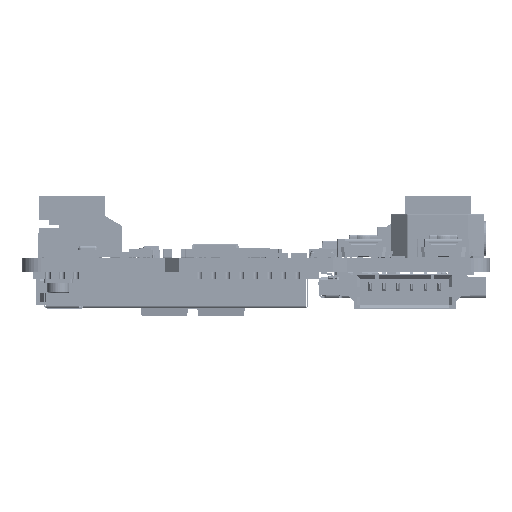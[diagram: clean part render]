
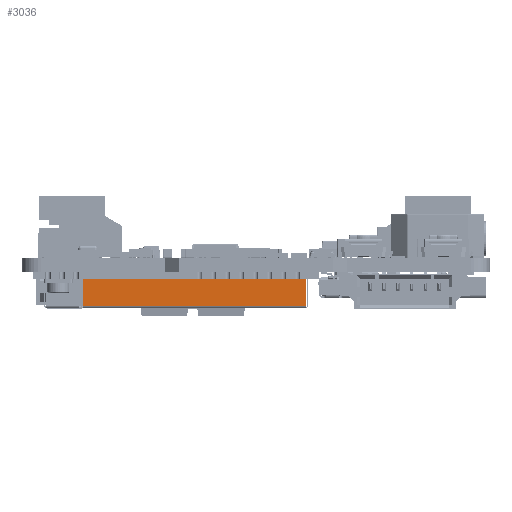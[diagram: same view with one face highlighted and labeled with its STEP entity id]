
A CAD part, left-side view. The second image highlights one B-rep face of the part: STEP entity #3036.
In plain terms, the highlighted planar face has unit normal (-1, 0, 0).
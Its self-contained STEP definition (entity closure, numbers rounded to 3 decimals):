
#2540 = EDGE_CURVE('',#2541,#2543,#2545,.T.);
#2541 = VERTEX_POINT('',#2542);
#2542 = CARTESIAN_POINT('',(-6.5,3.05,-11.794));
#2543 = VERTEX_POINT('',#2544);
#2544 = CARTESIAN_POINT('',(-6.5,0.65,-11.794));
#2545 = LINE('',#2546,#2547);
#2546 = CARTESIAN_POINT('',(-6.5,33.795,-11.794));
#2547 = VECTOR('',#2548,1.);
#2548 = DIRECTION('',(0.,-1.,0.));
#2615 = VERTEX_POINT('',#2616);
#2616 = CARTESIAN_POINT('',(-6.5,0.65,8.454));
#2622 = EDGE_CURVE('',#2543,#2615,#2623,.T.);
#2623 = LINE('',#2624,#2625);
#2624 = CARTESIAN_POINT('',(-6.5,0.65,8.66));
#2625 = VECTOR('',#2626,1.);
#2626 = DIRECTION('',(-0.,-0.,1.));
#2679 = VERTEX_POINT('',#2680);
#2680 = CARTESIAN_POINT('',(-6.5,3.05,8.454));
#2687 = EDGE_CURVE('',#2615,#2679,#2688,.T.);
#2688 = LINE('',#2689,#2690);
#2689 = CARTESIAN_POINT('',(-6.5,33.795,8.454));
#2690 = VECTOR('',#2691,1.);
#2691 = DIRECTION('',(0.,1.,0.));
#3036 = ADVANCED_FACE('',(#3037),#3048,.F.);
#3037 = FACE_BOUND('',#3038,.T.);
#3038 = EDGE_LOOP('',(#3039,#3040,#3046,#3047));
#3039 = ORIENTED_EDGE('',*,*,#2687,.T.);
#3040 = ORIENTED_EDGE('',*,*,#3041,.T.);
#3041 = EDGE_CURVE('',#2679,#2541,#3042,.T.);
#3042 = LINE('',#3043,#3044);
#3043 = CARTESIAN_POINT('',(-6.5,3.05,-11.794));
#3044 = VECTOR('',#3045,1.);
#3045 = DIRECTION('',(0.,-0.,-1.));
#3046 = ORIENTED_EDGE('',*,*,#2540,.T.);
#3047 = ORIENTED_EDGE('',*,*,#2622,.T.);
#3048 = PLANE('',#3049);
#3049 = AXIS2_PLACEMENT_3D('',#3050,#3051,#3052);
#3050 = CARTESIAN_POINT('',(-6.5,33.795,8.66));
#3051 = DIRECTION('',(1.,-0.,0.));
#3052 = DIRECTION('',(0.,0.,-1.));
